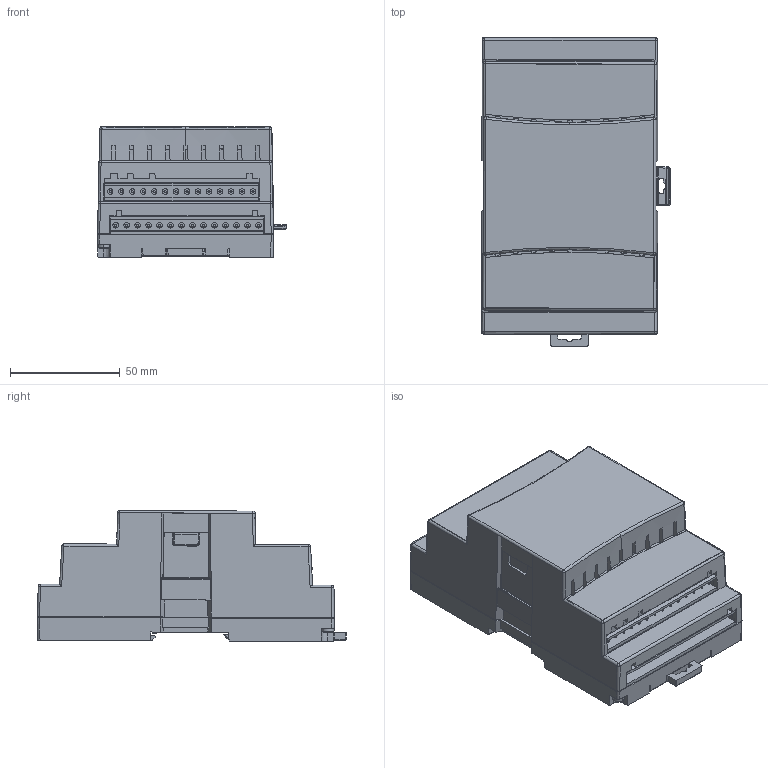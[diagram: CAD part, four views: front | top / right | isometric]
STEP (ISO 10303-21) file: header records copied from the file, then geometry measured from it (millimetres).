
FILE_DESCRIPTION (( 'STEP AP214' ), '1' );
FILE_NAME ('IO-EXP-XL.STEP', '2012-06-18T11:52:10', ( 'unitronics' ), ( 'unitronics' ), 'SwSTEP 2.0', 'SolidWorks 2011', '' );
FILE_SCHEMA (( 'AUTOMOTIVE_DESIGN' ));
Length unit declared in the file: millimetre
Products named in the file (2): Part14^IO-EXP-XL; IO-EXP-XL
Assembly tree (1 placements, depth 2):
  IO-EXP-XL
    Part14^IO-EXP-XL
Bounding box: 85.95 x 140.65 x 59.53 mm (x, y, z)
Volume: 456605.1 mm3; surface area: 94400.3 mm2
Topology: 1 solids, 17 shells, 2044 faces, 5450 edges, 3471 vertices
Faces by surface type: plane 1120, cylinder 572, bspline 223, sphere 65, cone 50, torus 14
Entity records: 65875 total; most frequent: CARTESIAN_POINT 17727, ORIENTED_EDGE 10866, DIRECTION 8950, EDGE_CURVE 5433, VERTEX_POINT 3471, VECTOR 3352, LINE 3352, AXIS2_PLACEMENT_3D 2799
